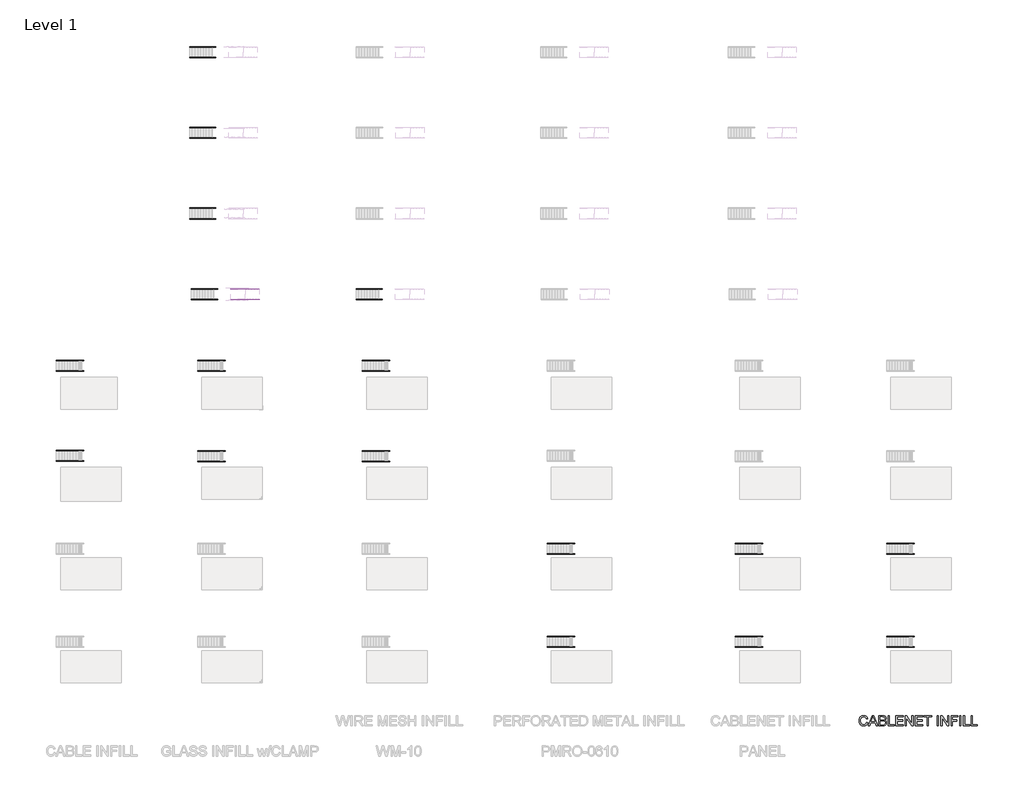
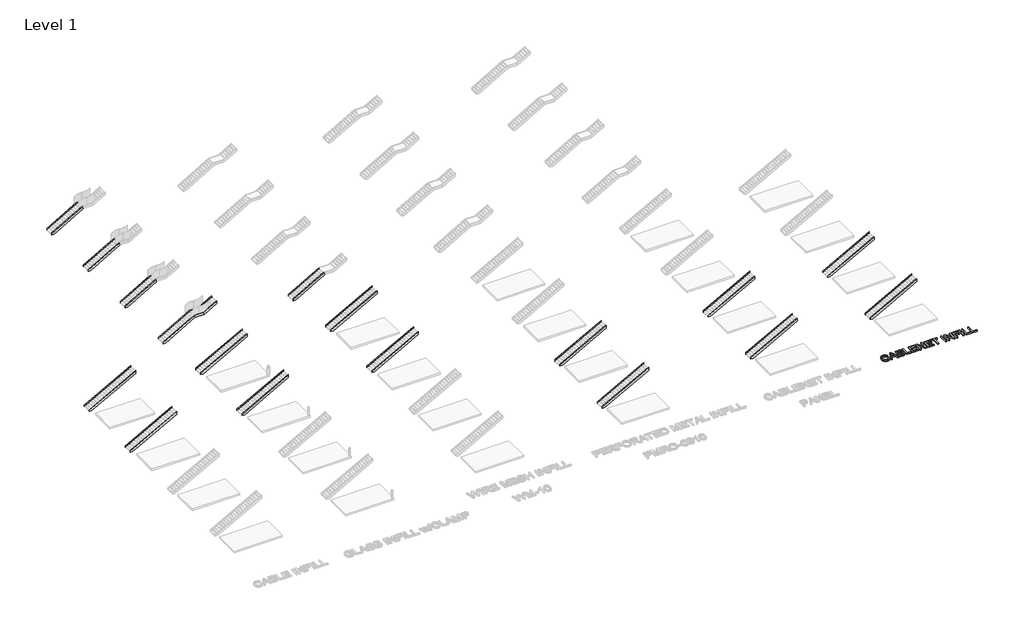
# One storey, part 7 of 8: 38 members, 1 proxy.
"""IFC4 building model written with IfcOpenShell, lengths in millimetres."""

from ifc_helpers import new_model, si_unit, frame, origin, place, context, project, spatial, polyline, outline, extrude, faceted_brep, element, save

model = new_model("IFC4")

# Units and contexts
model_context = context("Model", 3, world=origin())
ifc_project = project(units=[si_unit("LENGTHUNIT", "METRE", prefix="MILLI")], contexts=[model_context])

# Site, building, storey
site = spatial("IfcSite", under=ifc_project)
building = spatial("IfcBuilding", under=site)
storey = spatial("IfcBuildingStorey", under=building, Name="Level 1", Elevation=0.0)

# Proxy
placement = place(None, origin())
element("IfcBuildingElementProxy", 1, Name="36\" Arial", ObjectType="36\" Arial", at=placement, inside=storey, context=model_context, shape_type="Brep", body=[
    faceted_brep([(58925.6844259, -16970.1990264, 152.4), (58910.0903267, -17022.537201, 152.4), (58888.7381918, -17068.0159239, 152.4), (58861.6280212, -17106.635195, 152.4), (58828.7598148, -17138.3950144, 152.4), (58791.0258591, -17163.1838461, 152.4), (58749.3184405, -17180.8901546, 152.4), (58703.637559, -17191.5139396, 152.4), (58653.9832145, -17195.0552013, 152.4), (58612.3455058, -17192.4550229, 152.4), (58572.1995884, -17184.6544879, 152.4), (58533.5454624, -17171.653596, 152.4), (58496.3831277, -17153.4523475, 152.4), (58462.3647083, -17129.9949743, 152.4), (58433.1423285, -17101.2257087, 152.4), (58408.715988, -17067.1445505, 152.4), (58389.085687, -17027.7514997, 152.4), (58374.0074409, -16983.9179299, 152.4), (58363.2372651, -16936.5152145, 152.4), (58356.7751597, -16885.5433534, 152.4), (58354.6211245, -16831.0023467, 152.4), (58356.4405523, -16787.6009781, 152.4), (58361.8988355, -16744.8409404, 152.4), (58370.9959743, -16702.7222335, 152.4), (58383.7319686, -16661.2448575, 152.4), (58400.9572789, -16622.1794432, 152.4), (58423.5223656, -16587.2966214, 152.4), (58451.4272288, -16556.5963921, 152.4), (58484.6718685, -16530.0787554, 152.4), (58522.7752866, -16508.7057076, 152.4), (58565.2564848, -16493.4392448, 152.4), (58612.1154632, -16484.2793671, 152.4), (58663.3522218, -16481.2260746, 152.4), (58707.8828904, -16483.9796147, 152.4), (58748.454038, -16492.2402349, 152.4), (58785.0656647, -16506.0079354, 152.4), (58817.7177705, -16525.282716, 152.4), (58846.577659, -16550.5804299, 152.4), (58871.812634, -16582.4169301, 152.4), (58893.4226954, -16620.7922166, 152.4), (58911.4078434, -16665.7062895, 152.4), (59025.6205036, -16638.4915541, 152.4), (59003.9198193, -16577.5372388, 152.4), (58975.1784376, -16523.8327506, 152.4), (58939.3963584, -16477.3780894, 152.4), (58896.5735818, -16438.1732554, 152.4), (58847.5187423, -16407.0408249, 152.4), (58793.0404745, -16384.8033746, 152.4), (58733.1387783, -16371.4609044, 152.4), (58667.8136539, -16367.0134143, 152.4), (58609.1737065, -16370.4501112, 152.4), (58553.0433146, -16380.7602018, 152.4), (58499.4224782, -16397.9436861, 152.4), (58448.3111974, -16422.0005642, 152.4), (58401.3058282, -16452.6798805, 152.4), (58360.0027269, -16489.7306794, 152.4), (58324.4018934, -16533.152961, 152.4), (58294.5033278, -16582.9467251, 152.4), (58270.836825, -16638.1987726, 152.4), (58253.9321801, -16697.9959039, 152.4), (58243.7893932, -16762.3381191, 152.4), (58240.4084642, -16831.2254183, 152.4), (58243.3990179, -16895.4282138, 152.4), (58252.3706789, -16957.539713, 152.4), (58267.3234472, -17017.5599159, 152.4), (58288.2573229, -17075.4888226, 152.4), (58314.9143793, -17129.0120651, 152.4), (58347.03669, -17175.8152756, 152.4), (58384.624255, -17215.8984541, 152.4), (58427.6770742, -17249.2616006, 152.4), (58476.8713335, -17275.5143398, 152.4), (58532.8832185, -17294.2662963, 152.4), (58595.7127295, -17305.5174703, 152.4), (58665.3598662, -17309.2678616, 152.4), (58733.340937, -17304.3114894, 152.4), (58795.8567535, -17289.4423729, 152.4), (58852.9073157, -17264.6605121, 152.4), (58904.4926237, -17229.965907, 152.4), (58949.5949132, -17185.8325847, 152.4), (58987.1964202, -17132.7345725, 152.4), (59017.2971445, -17070.6718702, 152.4), (59039.8970862, -16999.6444779, 152.4), (58925.6844259, -16970.1990264, 0.0), (59039.8970862, -16999.6444779, 0.0), (59017.2971445, -17070.6718702, 0.0), (58987.1964202, -17132.7345725, 0.0), (58949.5949132, -17185.8325847, 0.0), (58904.4926237, -17229.965907, 0.0), (58852.9073157, -17264.6605121, 0.0), (58795.8567535, -17289.4423729, 0.0), (58733.340937, -17304.3114894, 0.0), (58665.3598662, -17309.2678616, 0.0), (58595.7127295, -17305.5174703, 0.0), (58532.8832185, -17294.2662963, 0.0), (58476.8713335, -17275.5143398, 0.0), (58427.6770742, -17249.2616006, 0.0), (58384.624255, -17215.8984541, 0.0), (58347.03669, -17175.8152756, 0.0), (58314.9143793, -17129.0120651, 0.0), (58288.2573229, -17075.4888226, 0.0), (58267.3234472, -17017.5599159, 0.0), (58252.3706789, -16957.539713, 0.0), (58243.3990179, -16895.4282138, 0.0), (58240.4084642, -16831.2254183, 0.0), (58243.7893932, -16762.3381191, 0.0), (58253.9321801, -16697.9959039, 0.0), (58270.836825, -16638.1987726, 0.0), (58294.5033278, -16582.9467251, 0.0), (58324.4018934, -16533.152961, 0.0), (58360.0027269, -16489.7306794, 0.0), (58401.3058282, -16452.6798805, 0.0), (58448.3111974, -16422.0005642, 0.0), (58499.4224782, -16397.9436861, 0.0), (58553.0433146, -16380.7602018, 0.0), (58609.1737065, -16370.4501112, 0.0), (58667.8136539, -16367.0134143, 0.0), (58733.1387783, -16371.4609044, 0.0), (58793.0404745, -16384.8033746, 0.0), (58847.5187423, -16407.0408249, 0.0), (58896.5735818, -16438.1732554, 0.0), (58939.3963584, -16477.3780894, 0.0), (58975.1784376, -16523.8327506, 0.0), (59003.9198193, -16577.5372388, 0.0), (59025.6205036, -16638.4915541, 0.0), (58911.4078434, -16665.7062895, 0.0), (58893.4226954, -16620.7922166, 0.0), (58871.812634, -16582.4169301, 0.0), (58846.577659, -16550.5804299, 0.0), (58817.7177705, -16525.282716, 0.0), (58785.0656647, -16506.0079354, 0.0), (58748.454038, -16492.2402349, 0.0), (58707.8828904, -16483.9796147, 0.0), (58663.3522218, -16481.2260746, 0.0), (58612.1154632, -16484.2793671, 0.0), (58565.2564848, -16493.4392448, 0.0), (58522.7752866, -16508.7057076, 0.0), (58484.6718685, -16530.0787554, 0.0), (58451.4272288, -16556.5963921, 0.0), (58423.5223656, -16587.2966214, 0.0), (58400.9572789, -16622.1794432, 0.0), (58383.7319686, -16661.2448575, 0.0), (58370.9959743, -16702.7222335, 0.0), (58361.8988355, -16744.8409404, 0.0), (58356.4405523, -16787.6009781, 0.0), (58354.6211245, -16831.0023467, 0.0), (58356.7751597, -16885.5433534, 0.0), (58363.2372651, -16936.5152145, 0.0), (58374.0074409, -16983.9179299, 0.0), (58389.085687, -17027.7514997, 0.0), (58408.715988, -17067.1445505, 0.0), (58433.1423285, -17101.2257087, 0.0), (58462.3647083, -17129.9949743, 0.0), (58496.3831277, -17153.4523475, 0.0), (58533.5454624, -17171.653596, 0.0), (58572.1995884, -17184.6544879, 0.0), (58612.3455058, -17192.4550229, 0.0), (58653.9832145, -17195.0552013, 0.0), (58703.637559, -17191.5139396, 0.0), (58749.3184405, -17180.8901546, 0.0), (58791.0258591, -17163.1838461, 0.0), (58828.7598148, -17138.3950144, 0.0), (58861.6280212, -17106.635195, 0.0), (58888.7381918, -17068.0159239, 0.0), (58910.0903267, -17022.537201, 0.0)], [[[0, 1, 2, 3, 4, 5, 6, 7, 8, 9, 10, 11, 12, 13, 14, 15, 16, 17, 18, 19, 20, 21, 22, 23, 24, 25, 26, 27, 28, 29, 30, 31, 32, 33, 34, 35, 36, 37, 38, 39, 40, 41, 42, 43, 44, 45, 46, 47, 48, 49, 50, 51, 52, 53, 54, 55, 56, 57, 58, 59, 60, 61, 62, 63, 64, 65, 66, 67, 68, 69, 70, 71, 72, 73, 74, 75, 76, 77, 78, 79, 80, 81]], [[82, 83, 84, 85, 86, 87, 88, 89, 90, 91, 92, 93, 94, 95, 96, 97, 98, 99, 100, 101, 102, 103, 104, 105, 106, 107, 108, 109, 110, 111, 112, 113, 114, 115, 116, 117, 118, 119, 120, 121, 122, 123, 124, 125, 126, 127, 128, 129, 130, 131, 132, 133, 134, 135, 136, 137, 138, 139, 140, 141, 142, 143, 144, 145, 146, 147, 148, 149, 150, 151, 152, 153, 154, 155, 156, 157, 158, 159, 160, 161, 162, 163]], [[63, 62, 102, 101]], [[64, 63, 101, 100]], [[65, 64, 100, 99]], [[66, 65, 99, 98]], [[67, 66, 98, 97]], [[68, 67, 97, 96]], [[69, 68, 96, 95]], [[70, 69, 95, 94]], [[71, 70, 94, 93]], [[72, 71, 93, 92]], [[73, 72, 92, 91]], [[74, 73, 91, 90]], [[75, 74, 90, 89]], [[76, 75, 89, 88]], [[77, 76, 88, 87]], [[78, 77, 87, 86]], [[79, 78, 86, 85]], [[80, 79, 85, 84]], [[81, 80, 84, 83]], [[0, 81, 83, 82]], [[61, 60, 104, 103]], [[62, 61, 103, 102]], [[54, 53, 111, 110]], [[55, 54, 110, 109]], [[56, 55, 109, 108]], [[57, 56, 108, 107]], [[58, 57, 107, 106]], [[59, 58, 106, 105]], [[60, 59, 105, 104]], [[33, 32, 132, 131]], [[34, 33, 131, 130]], [[35, 34, 130, 129]], [[36, 35, 129, 128]], [[37, 36, 128, 127]], [[38, 37, 127, 126]], [[39, 38, 126, 125]], [[40, 39, 125, 124]], [[41, 40, 124, 123]], [[42, 41, 123, 122]], [[43, 42, 122, 121]], [[44, 43, 121, 120]], [[45, 44, 120, 119]], [[46, 45, 119, 118]], [[47, 46, 118, 117]], [[48, 47, 117, 116]], [[49, 48, 116, 115]], [[50, 49, 115, 114]], [[51, 50, 114, 113]], [[52, 51, 113, 112]], [[53, 52, 112, 111]], [[1, 0, 82, 163]], [[2, 1, 163, 162]], [[3, 2, 162, 161]], [[4, 3, 161, 160]], [[5, 4, 160, 159]], [[6, 5, 159, 158]], [[7, 6, 158, 157]], [[8, 7, 157, 156]], [[9, 8, 156, 155]], [[10, 9, 155, 154]], [[11, 10, 154, 153]], [[12, 11, 153, 152]], [[13, 12, 152, 151]], [[14, 13, 151, 150]], [[15, 14, 150, 149]], [[16, 15, 149, 148]], [[17, 16, 148, 147]], [[18, 17, 147, 146]], [[19, 18, 146, 145]], [[20, 19, 145, 144]], [[21, 20, 144, 143]], [[22, 21, 143, 142]], [[23, 22, 142, 141]], [[24, 23, 141, 140]], [[25, 24, 140, 139]], [[26, 25, 139, 138]], [[27, 26, 138, 137]], [[28, 27, 137, 136]], [[29, 28, 136, 135]], [[30, 29, 135, 134]], [[31, 30, 134, 133]], [[32, 31, 133, 132]]]),
    faceted_brep([(59090.5343398, -17294.991279, 152.4), (59211.2160766, -17294.991279, 152.4), (59315.6135864, -17009.4596284, 152.4), (59691.9353791, -17009.4596284, 152.4), (59796.5559605, -17294.991279, 152.4), (59917.2376972, -17294.991279, 152.4), (59552.5156278, -16381.2899968, 152.4), (59455.2564093, -16381.2899968, 152.4), (59357.5510476, -16895.2469681, 152.4), (59447.00276, -16650.9835638, 152.4), (59503.8860185, -16495.5026571, 152.4), (59567.9075683, -16670.6138648, 152.4), (59650.2209895, -16895.2469681, 152.4), (59090.5343398, -17294.991279, 0.0), (59455.2564093, -16381.2899968, 0.0), (59552.5156278, -16381.2899968, 0.0), (59917.2376972, -17294.991279, 0.0), (59796.5559605, -17294.991279, 0.0), (59691.9353791, -17009.4596284, 0.0), (59315.6135864, -17009.4596284, 0.0), (59211.2160766, -17294.991279, 0.0), (59357.5510476, -16895.2469681, 0.0), (59650.2209895, -16895.2469681, 0.0), (59567.9075683, -16670.6138648, 0.0), (59503.8860185, -16495.5026571, 0.0), (59447.00276, -16650.9835638, 0.0)], [[[0, 1, 2, 3, 4, 5, 6, 7], [8, 9, 10, 11, 12]], [[13, 14, 15, 16, 17, 18, 19, 20], [21, 22, 23, 24, 25]], [[1, 0, 13, 20]], [[2, 1, 20, 19]], [[3, 2, 19, 18]], [[4, 3, 18, 17]], [[5, 4, 17, 16]], [[6, 5, 16, 15]], [[7, 6, 15, 14]], [[0, 7, 14, 13]], [[9, 8, 21, 25]], [[10, 9, 25, 24]], [[11, 10, 24, 23]], [[12, 11, 23, 22]], [[8, 12, 22, 21]]]),
    faceted_brep([(60039.2578636, -17294.991279, 152.4), (60385.2419184, -17294.991279, 152.4), (60465.2409717, -17291.0596421, 152.4), (60531.6884252, -17279.2647311, 152.4), (60586.3688517, -17259.8017338, 152.4), (60631.066824, -17232.8658379, 152.4), (60650.118533, -17215.8984541, 152.4), (60667.5669148, -17195.6686482, 152.4), (60697.6536972, -17145.4217698, 152.4), (60709.4137532, -17116.4573165, 152.4), (60717.8137932, -17086.3356792, 152.4), (60722.8538172, -17055.056858, 152.4), (60724.5338252, -17022.6208529, 152.4), (60722.0730666, -16983.0395855, 152.4), (60714.6907908, -16946.1630613, 152.4), (60702.3869977, -16911.9912802, 152.4), (60685.1616875, -16880.5242423, 152.4), (60663.3634093, -16852.6124081, 152.4), (60637.3407128, -16829.1062381, 152.4), (60607.0935977, -16810.0057321, 152.4), (60572.6220642, -16795.3108903, 152.4), (60601.6701694, -16778.7129689, 152.4), (60626.8005796, -16759.7030858, 152.4), (60648.0132947, -16738.2812411, 152.4), (60665.3083149, -16714.4474346, 152.4), (60678.7274659, -16688.996359, 152.4), (60688.3125738, -16662.7227068, 152.4), (60694.0636386, -16635.6264782, 152.4), (60695.9806602, -16607.707673, 152.4), (60693.7011472, -16577.4814709, 152.4), (60686.8626084, -16547.9244836, 152.4), (60675.4650438, -16519.0367111, 152.4), (60659.5084532, -16490.8181535, 152.4), (60639.5296029, -16464.739689, 152.4), (60616.0652587, -16442.2721961, 152.4), (60589.1154208, -16423.4156747, 152.4), (60558.6800891, -16408.1701249, 152.4), (60523.8739482, -16396.4100689, 152.4), (60483.8116826, -16388.0100288, 152.4), (60438.4932925, -16382.9700048, 152.4), (60387.9187777, -16381.2899968, 152.4), (60039.2578636, -16381.2899968, 152.4), (60153.4705239, -16752.4811427, 152.4), (60153.4705239, -16495.5026571, 152.4), (60346.2043881, -16495.5026571, 152.4), (60434.8753499, -16498.4862398, 152.4), (60492.9855023, -16507.4369878, 152.4), (60513.1595403, -16514.6659019, 152.4), (60530.8519067, -16524.4183135, 152.4), (60546.0626016, -16536.6942226, 152.4), (60558.7916249, -16551.4936292, 152.4), (60576.0239061, -16586.1812634, 152.4), (60581.7679999, -16625.9995443, 152.4), (60580.2274116, -16647.4632151, 152.4), (60575.6056469, -16667.0168352, 152.4), (60567.9027056, -16684.6604047, 152.4), (60557.1185879, -16700.3939236, 152.4), (60543.2951195, -16714.1197982, 152.4), (60526.4741265, -16725.7404344, 152.4), (60483.8395666, -16742.6659922, 152.4), (60434.9868857, -16750.0273551, 152.4), (60362.0424718, -16752.4811427, 152.4), (60153.4705239, -17180.7786188, 152.4), (60153.4705239, -16866.693803, 152.4), (60376.542126, -16866.693803, 152.4), (60457.8796089, -16870.5139042, 152.4), (60517.6349143, -16881.9742078, 152.4), (60540.4230726, -16891.0155786, 152.4), (60559.823331, -16902.8592865, 152.4), (60575.8356895, -16917.5053314, 152.4), (60588.460148, -16934.9537132, 152.4), (60604.8559107, -16975.998888, 152.4), (60610.321165, -17023.7362109, 152.4), (60605.6645453, -17064.8371536, 152.4), (60591.6946862, -17100.6959136, 152.4), (60570.502884, -17130.0019453, 152.4), (60544.1804349, -17151.4447031, 152.4), (60511.8071687, -17166.4183844, 152.4), (60472.4629149, -17176.3171867, 152.4), (60387.6957061, -17180.7786188, 152.4), (60039.2578636, -17294.991279, 0.0), (60039.2578636, -16381.2899968, 0.0), (60387.9187777, -16381.2899968, 0.0), (60438.4932925, -16382.9700048, 0.0), (60483.8116826, -16388.0100288, 0.0), (60523.8739482, -16396.4100689, 0.0), (60558.6800891, -16408.1701249, 0.0), (60589.1154208, -16423.4156747, 0.0), (60616.0652587, -16442.2721961, 0.0), (60639.5296029, -16464.739689, 0.0), (60659.5084532, -16490.8181535, 0.0), (60675.4650438, -16519.0367111, 0.0), (60686.8626084, -16547.9244836, 0.0), (60693.7011472, -16577.4814709, 0.0), (60695.9806602, -16607.707673, 0.0), (60694.0636386, -16635.6264782, 0.0), (60688.3125738, -16662.7227068, 0.0), (60678.7274659, -16688.996359, 0.0), (60665.3083149, -16714.4474346, 0.0), (60648.0132947, -16738.2812411, 0.0), (60626.8005796, -16759.7030858, 0.0), (60601.6701694, -16778.7129689, 0.0), (60572.6220642, -16795.3108903, 0.0), (60607.0935977, -16810.0057321, 0.0), (60637.3407128, -16829.1062381, 0.0), (60663.3634093, -16852.6124081, 0.0), (60685.1616875, -16880.5242423, 0.0), (60702.3869977, -16911.9912802, 0.0), (60714.6907908, -16946.1630613, 0.0), (60722.0730666, -16983.0395855, 0.0), (60724.5338252, -17022.6208529, 0.0), (60722.8538172, -17055.056858, 0.0), (60717.8137932, -17086.3356792, 0.0), (60709.4137532, -17116.4573165, 0.0), (60697.6536972, -17145.4217698, 0.0), (60667.5669148, -17195.6686482, 0.0), (60650.118533, -17215.8984541, 0.0), (60631.066824, -17232.8658379, 0.0), (60586.3688517, -17259.8017338, 0.0), (60531.6884252, -17279.2647311, 0.0), (60465.2409717, -17291.0596421, 0.0), (60385.2419184, -17294.991279, 0.0), (60153.4705239, -16752.4811427, 0.0), (60362.0424718, -16752.4811427, 0.0), (60434.9868857, -16750.0273551, 0.0), (60483.8395666, -16742.6659922, 0.0), (60526.4741265, -16725.7404344, 0.0), (60543.2951195, -16714.1197982, 0.0), (60557.1185879, -16700.3939236, 0.0), (60567.9027056, -16684.6604047, 0.0), (60575.6056469, -16667.0168352, 0.0), (60580.2274116, -16647.4632151, 0.0), (60581.7679999, -16625.9995443, 0.0), (60576.0239061, -16586.1812634, 0.0), (60558.7916249, -16551.4936292, 0.0), (60546.0626016, -16536.6942226, 0.0), (60530.8519067, -16524.4183135, 0.0), (60513.1595403, -16514.6659019, 0.0), (60492.9855023, -16507.4369878, 0.0), (60434.8753499, -16498.4862398, 0.0), (60346.2043881, -16495.5026571, 0.0), (60153.4705239, -16495.5026571, 0.0), (60153.4705239, -17180.7786188, 0.0), (60387.6957061, -17180.7786188, 0.0), (60472.4629149, -17176.3171867, 0.0), (60511.8071687, -17166.4183844, 0.0), (60544.1804349, -17151.4447031, 0.0), (60570.502884, -17130.0019453, 0.0), (60591.6946862, -17100.6959136, 0.0), (60605.6645453, -17064.8371536, 0.0), (60610.321165, -17023.7362109, 0.0), (60604.8559107, -16975.998888, 0.0), (60588.460148, -16934.9537132, 0.0), (60575.8356895, -16917.5053314, 0.0), (60559.823331, -16902.8592865, 0.0), (60540.4230726, -16891.0155786, 0.0), (60517.6349143, -16881.9742078, 0.0), (60457.8796089, -16870.5139042, 0.0), (60376.542126, -16866.693803, 0.0), (60153.4705239, -16866.693803, 0.0)], [[[0, 1, 2, 3, 4, 5, 6, 7, 8, 9, 10, 11, 12, 13, 14, 15, 16, 17, 18, 19, 20, 21, 22, 23, 24, 25, 26, 27, 28, 29, 30, 31, 32, 33, 34, 35, 36, 37, 38, 39, 40, 41], [42, 43, 44, 45, 46, 47, 48, 49, 50, 51, 52, 53, 54, 55, 56, 57, 58, 59, 60, 61], [62, 63, 64, 65, 66, 67, 68, 69, 70, 71, 72, 73, 74, 75, 76, 77, 78, 79]], [[80, 81, 82, 83, 84, 85, 86, 87, 88, 89, 90, 91, 92, 93, 94, 95, 96, 97, 98, 99, 100, 101, 102, 103, 104, 105, 106, 107, 108, 109, 110, 111, 112, 113, 114, 115, 116, 117, 118, 119, 120, 121], [122, 123, 124, 125, 126, 127, 128, 129, 130, 131, 132, 133, 134, 135, 136, 137, 138, 139, 140, 141], [142, 143, 144, 145, 146, 147, 148, 149, 150, 151, 152, 153, 154, 155, 156, 157, 158, 159]], [[37, 36, 86, 85]], [[38, 37, 85, 84]], [[39, 38, 84, 83]], [[40, 39, 83, 82]], [[41, 40, 82, 81]], [[0, 41, 81, 80]], [[16, 15, 107, 106]], [[17, 16, 106, 105]], [[18, 17, 105, 104]], [[19, 18, 104, 103]], [[20, 19, 103, 102]], [[21, 20, 102, 101]], [[22, 21, 101, 100]], [[23, 22, 100, 99]], [[24, 23, 99, 98]], [[25, 24, 98, 97]], [[26, 25, 97, 96]], [[27, 26, 96, 95]], [[28, 27, 95, 94]], [[29, 28, 94, 93]], [[30, 29, 93, 92]], [[31, 30, 92, 91]], [[32, 31, 91, 90]], [[33, 32, 90, 89]], [[34, 33, 89, 88]], [[35, 34, 88, 87]], [[36, 35, 87, 86]], [[1, 0, 80, 121]], [[2, 1, 121, 120]], [[3, 2, 120, 119]], [[4, 3, 119, 118]], [[5, 4, 118, 117]], [[6, 5, 117, 116]], [[7, 6, 116, 115]], [[8, 7, 115, 114]], [[9, 8, 114, 113]], [[10, 9, 113, 112]], [[11, 10, 112, 111]], [[12, 11, 111, 110]], [[13, 12, 110, 109]], [[14, 13, 109, 108]], [[15, 14, 108, 107]], [[43, 42, 122, 141]], [[44, 43, 141, 140]], [[45, 44, 140, 139]], [[46, 45, 139, 138]], [[47, 46, 138, 137]], [[48, 47, 137, 136]], [[49, 48, 136, 135]], [[50, 49, 135, 134]], [[51, 50, 134, 133]], [[52, 51, 133, 132]], [[53, 52, 132, 131]], [[54, 53, 131, 130]], [[55, 54, 130, 129]], [[56, 55, 129, 128]], [[57, 56, 128, 127]], [[58, 57, 127, 126]], [[59, 58, 126, 125]], [[60, 59, 125, 124]], [[61, 60, 124, 123]], [[42, 61, 123, 122]], [[63, 62, 142, 159]], [[64, 63, 159, 158]], [[65, 64, 158, 157]], [[66, 65, 157, 156]], [[67, 66, 156, 155]], [[68, 67, 155, 154]], [[69, 68, 154, 153]], [[70, 69, 153, 152]], [[71, 70, 152, 151]], [[72, 71, 151, 150]], [[73, 72, 150, 149]], [[74, 73, 149, 148]], [[75, 74, 148, 147]], [[76, 75, 147, 146]], [[77, 76, 146, 145]], [[78, 77, 145, 144]], [[79, 78, 144, 143]], [[62, 79, 143, 142]]]),
    faceted_brep([(60881.5762331, -17294.991279, 152.4), (61452.6395345, -17294.991279, 152.4), (61452.6395345, -17180.7786188, 152.4), (60995.7888934, -17180.7786188, 152.4), (60995.7888934, -16381.2899968, 152.4), (60881.5762331, -16381.2899968, 152.4), (60881.5762331, -17294.991279, 0.0), (60881.5762331, -16381.2899968, 0.0), (60995.7888934, -16381.2899968, 0.0), (60995.7888934, -17180.7786188, 0.0), (61452.6395345, -17180.7786188, 0.0), (61452.6395345, -17294.991279, 0.0)], [[[0, 1, 2, 3, 4, 5]], [[6, 7, 8, 9, 10, 11]], [[1, 0, 6, 11]], [[2, 1, 11, 10]], [[3, 2, 10, 9]], [[4, 3, 9, 8]], [[5, 4, 8, 7]], [[0, 5, 7, 6]]]),
    faceted_brep([(61581.1287773, -17294.991279, 152.4), (62252.1281564, -17294.991279, 152.4), (62252.1281564, -17180.7786188, 152.4), (61695.3414376, -17180.7786188, 152.4), (61695.3414376, -16880.9703855, 152.4), (62209.2984088, -16880.9703855, 152.4), (62209.2984088, -16766.7577253, 152.4), (61695.3414376, -16766.7577253, 152.4), (61695.3414376, -16495.5026571, 152.4), (62237.8515739, -16495.5026571, 152.4), (62237.8515739, -16381.2899968, 152.4), (61581.1287773, -16381.2899968, 152.4), (61581.1287773, -17294.991279, 0.0), (61581.1287773, -16381.2899968, 0.0), (62237.8515739, -16381.2899968, 0.0), (62237.8515739, -16495.5026571, 0.0), (61695.3414376, -16495.5026571, 0.0), (61695.3414376, -16766.7577253, 0.0), (62209.2984088, -16766.7577253, 0.0), (62209.2984088, -16880.9703855, 0.0), (61695.3414376, -16880.9703855, 0.0), (61695.3414376, -17180.7786188, 0.0), (62252.1281564, -17180.7786188, 0.0), (62252.1281564, -17294.991279, 0.0)], [[[0, 1, 2, 3, 4, 5, 6, 7, 8, 9, 10, 11]], [[12, 13, 14, 15, 16, 17, 18, 19, 20, 21, 22, 23]], [[10, 9, 15, 14]], [[11, 10, 14, 13]], [[0, 11, 13, 12]], [[1, 0, 12, 23]], [[2, 1, 23, 22]], [[3, 2, 22, 21]], [[4, 3, 21, 20]], [[5, 4, 20, 19]], [[6, 5, 19, 18]], [[7, 6, 18, 17]], [[8, 7, 17, 16]], [[9, 8, 16, 15]]]),
    faceted_brep([(62423.4471468, -17294.991279, 152.4), (62537.6598071, -17294.991279, 152.4), (62537.6598071, -16570.9008586, 152.4), (63015.0330356, -17294.991279, 152.4), (63137.2762736, -17294.991279, 152.4), (63137.2762736, -16381.2899968, 152.4), (63023.0636133, -16381.2899968, 152.4), (63023.0636133, -17105.1573457, 152.4), (62545.6903848, -16381.2899968, 152.4), (62423.4471468, -16381.2899968, 152.4), (62423.4471468, -17294.991279, 0.0), (62423.4471468, -16381.2899968, 0.0), (62545.6903848, -16381.2899968, 0.0), (63023.0636133, -17105.1573457, 0.0), (63023.0636133, -16381.2899968, 0.0), (63137.2762736, -16381.2899968, 0.0), (63137.2762736, -17294.991279, 0.0), (63015.0330356, -17294.991279, 0.0), (62537.6598071, -16570.9008586, 0.0), (62537.6598071, -17294.991279, 0.0)], [[[0, 1, 2, 3, 4, 5, 6, 7, 8, 9]], [[10, 11, 12, 13, 14, 15, 16, 17, 18, 19]], [[1, 0, 10, 19]], [[2, 1, 19, 18]], [[3, 2, 18, 17]], [[4, 3, 17, 16]], [[5, 4, 16, 15]], [[6, 5, 15, 14]], [[7, 6, 14, 13]], [[8, 7, 13, 12]], [[9, 8, 12, 11]], [[0, 9, 11, 10]]]),
    faceted_brep([(63337.148429, -17294.991279, 152.4), (64008.1478082, -17294.991279, 152.4), (64008.1478082, -17180.7786188, 152.4), (63451.3610893, -17180.7786188, 152.4), (63451.3610893, -16880.9703855, 152.4), (63965.3180606, -16880.9703855, 152.4), (63965.3180606, -16766.7577253, 152.4), (63451.3610893, -16766.7577253, 152.4), (63451.3610893, -16495.5026571, 152.4), (63993.8712256, -16495.5026571, 152.4), (63993.8712256, -16381.2899968, 152.4), (63337.148429, -16381.2899968, 152.4), (63337.148429, -17294.991279, 0.0), (63337.148429, -16381.2899968, 0.0), (63993.8712256, -16381.2899968, 0.0), (63993.8712256, -16495.5026571, 0.0), (63451.3610893, -16495.5026571, 0.0), (63451.3610893, -16766.7577253, 0.0), (63965.3180606, -16766.7577253, 0.0), (63965.3180606, -16880.9703855, 0.0), (63451.3610893, -16880.9703855, 0.0), (63451.3610893, -17180.7786188, 0.0), (64008.1478082, -17180.7786188, 0.0), (64008.1478082, -17294.991279, 0.0)], [[[0, 1, 2, 3, 4, 5, 6, 7, 8, 9, 10, 11]], [[12, 13, 14, 15, 16, 17, 18, 19, 20, 21, 22, 23]], [[2, 1, 23, 22]], [[3, 2, 22, 21]], [[4, 3, 21, 20]], [[5, 4, 20, 19]], [[6, 5, 19, 18]], [[7, 6, 18, 17]], [[8, 7, 17, 16]], [[9, 8, 16, 15]], [[10, 9, 15, 14]], [[11, 10, 14, 13]], [[0, 11, 13, 12]], [[1, 0, 12, 23]]]),
    faceted_brep([(64407.8921191, -17294.991279, 152.4), (64522.1047794, -17294.991279, 152.4), (64522.1047794, -16495.5026571, 152.4), (64821.9130126, -16495.5026571, 152.4), (64821.9130126, -16381.2899968, 152.4), (64108.0838859, -16381.2899968, 152.4), (64108.0838859, -16495.5026571, 152.4), (64407.8921191, -16495.5026571, 152.4), (64407.8921191, -17294.991279, 0.0), (64407.8921191, -16495.5026571, 0.0), (64108.0838859, -16495.5026571, 0.0), (64108.0838859, -16381.2899968, 0.0), (64821.9130126, -16381.2899968, 0.0), (64821.9130126, -16495.5026571, 0.0), (64522.1047794, -16495.5026571, 0.0), (64522.1047794, -17294.991279, 0.0)], [[[0, 1, 2, 3, 4, 5, 6, 7]], [[8, 9, 10, 11, 12, 13, 14, 15]], [[1, 0, 8, 15]], [[2, 1, 15, 14]], [[3, 2, 14, 13]], [[4, 3, 13, 12]], [[5, 4, 12, 11]], [[6, 5, 11, 10]], [[7, 6, 10, 9]], [[0, 7, 9, 8]]]),
    faceted_brep([(65321.5934013, -17294.991279, 152.4), (65435.8060616, -17294.991279, 152.4), (65435.8060616, -16381.2899968, 152.4), (65321.5934013, -16381.2899968, 152.4), (65321.5934013, -17294.991279, 0.0), (65321.5934013, -16381.2899968, 0.0), (65435.8060616, -16381.2899968, 0.0), (65435.8060616, -17294.991279, 0.0)], [[[0, 1, 2, 3]], [[4, 5, 6, 7]], [[1, 0, 4, 7]], [[2, 1, 7, 6]], [[3, 2, 6, 5]], [[0, 3, 5, 4]]]),
    faceted_brep([(65664.2313822, -17294.991279, 152.4), (65778.4440424, -17294.991279, 152.4), (65778.4440424, -16570.9008586, 152.4), (66255.8172709, -17294.991279, 152.4), (66378.0605089, -17294.991279, 152.4), (66378.0605089, -16381.2899968, 152.4), (66263.8478486, -16381.2899968, 152.4), (66263.8478486, -17105.1573457, 152.4), (65786.4746201, -16381.2899968, 152.4), (65664.2313822, -16381.2899968, 152.4), (65664.2313822, -17294.991279, 0.0), (65664.2313822, -16381.2899968, 0.0), (65786.4746201, -16381.2899968, 0.0), (66263.8478486, -17105.1573457, 0.0), (66263.8478486, -16381.2899968, 0.0), (66378.0605089, -16381.2899968, 0.0), (66378.0605089, -17294.991279, 0.0), (66255.8172709, -17294.991279, 0.0), (65778.4440424, -16570.9008586, 0.0), (65778.4440424, -17294.991279, 0.0)], [[[0, 1, 2, 3, 4, 5, 6, 7, 8, 9]], [[10, 11, 12, 13, 14, 15, 16, 17, 18, 19]], [[1, 0, 10, 19]], [[2, 1, 19, 18]], [[3, 2, 18, 17]], [[4, 3, 17, 16]], [[5, 4, 16, 15]], [[6, 5, 15, 14]], [[7, 6, 14, 13]], [[8, 7, 13, 12]], [[9, 8, 12, 11]], [[0, 9, 11, 10]]]),
    faceted_brep([(66577.9326644, -17294.991279, 152.4), (66692.1453246, -17294.991279, 152.4), (66692.1453246, -16880.9703855, 152.4), (67120.4428007, -16880.9703855, 152.4), (67120.4428007, -16766.7577253, 152.4), (66692.1453246, -16766.7577253, 152.4), (66692.1453246, -16495.5026571, 152.4), (67191.8257133, -16495.5026571, 152.4), (67191.8257133, -16381.2899968, 152.4), (66577.9326644, -16381.2899968, 152.4), (66577.9326644, -17294.991279, 0.0), (66577.9326644, -16381.2899968, 0.0), (67191.8257133, -16381.2899968, 0.0), (67191.8257133, -16495.5026571, 0.0), (66692.1453246, -16495.5026571, 0.0), (66692.1453246, -16766.7577253, 0.0), (67120.4428007, -16766.7577253, 0.0), (67120.4428007, -16880.9703855, 0.0), (66692.1453246, -16880.9703855, 0.0), (66692.1453246, -17294.991279, 0.0)], [[[0, 1, 2, 3, 4, 5, 6, 7, 8, 9]], [[10, 11, 12, 13, 14, 15, 16, 17, 18, 19]], [[1, 0, 10, 19]], [[2, 1, 19, 18]], [[3, 2, 18, 17]], [[4, 3, 17, 16]], [[5, 4, 16, 15]], [[6, 5, 15, 14]], [[7, 6, 14, 13]], [[8, 7, 13, 12]], [[9, 8, 12, 11]], [[0, 9, 11, 10]]]),
    faceted_brep([(67363.1447038, -17294.991279, 152.4), (67477.357364, -17294.991279, 152.4), (67477.357364, -16381.2899968, 152.4), (67363.1447038, -16381.2899968, 152.4), (67363.1447038, -17294.991279, 0.0), (67363.1447038, -16381.2899968, 0.0), (67477.357364, -16381.2899968, 0.0), (67477.357364, -17294.991279, 0.0)], [[[0, 1, 2, 3]], [[4, 5, 6, 7]], [[1, 0, 4, 7]], [[2, 1, 7, 6]], [[3, 2, 6, 5]], [[0, 3, 5, 4]]]),
    faceted_brep([(67705.7826846, -17294.991279, 152.4), (68276.845986, -17294.991279, 152.4), (68276.845986, -17180.7786188, 152.4), (67819.9953449, -17180.7786188, 152.4), (67819.9953449, -16381.2899968, 152.4), (67705.7826846, -16381.2899968, 152.4), (67705.7826846, -17294.991279, 0.0), (67705.7826846, -16381.2899968, 0.0), (67819.9953449, -16381.2899968, 0.0), (67819.9953449, -17180.7786188, 0.0), (68276.845986, -17180.7786188, 0.0), (68276.845986, -17294.991279, 0.0)], [[[0, 1, 2, 3, 4, 5]], [[6, 7, 8, 9, 10, 11]], [[1, 0, 6, 11]], [[2, 1, 11, 10]], [[3, 2, 10, 9]], [[4, 3, 9, 8]], [[5, 4, 8, 7]], [[0, 5, 7, 6]]]),
    faceted_brep([(68405.3352288, -17294.991279, 152.4), (68976.3985301, -17294.991279, 152.4), (68976.3985301, -17180.7786188, 152.4), (68519.547889, -17180.7786188, 152.4), (68519.547889, -16381.2899968, 152.4), (68405.3352288, -16381.2899968, 152.4), (68405.3352288, -17294.991279, 0.0), (68405.3352288, -16381.2899968, 0.0), (68519.547889, -16381.2899968, 0.0), (68519.547889, -17180.7786188, 0.0), (68976.3985301, -17180.7786188, 0.0), (68976.3985301, -17294.991279, 0.0)], [[[0, 1, 2, 3, 4, 5]], [[6, 7, 8, 9, 10, 11]], [[1, 0, 6, 11]], [[2, 1, 11, 10]], [[3, 2, 10, 9]], [[4, 3, 9, 8]], [[5, 4, 8, 7]], [[0, 5, 7, 6]]]),
])

# Members
element("IfcMember", 2, ObjectType="Stringer - 2\" Width", at=placement, inside=storey, context=model_context, shape_type="SweptSolid", body=[
    extrude(outline(polyline([(179.6072535, -2292.8839979), (0.0, -2292.8839979), (0.0, -2018.4503195), (1916.7928571, 1335.9371805), (2208.8928571, 1258.3658084), (179.6072535, -2292.8839979)])), frame((0.0, 22299.7361774, 0.0), z_axis=(0.0, 1.0, 0.0), x_axis=(0.0, 0.0, 1.0)), (0.0, 0.0, 1.0), 50.8),
])
element("IfcMember", 3, ObjectType="Stringer - 2\" Width", at=placement, inside=storey, context=model_context, shape_type="SweptSolid", body=[
    extrude(outline(polyline([(179.6072535, -2292.8839979), (0.0, -2292.8839979), (0.0, -2018.4503195), (1916.7928571, 1335.9371805), (2208.8928571, 1258.3658084), (179.6072535, -2292.8839979)])), frame((0.0, 21334.5361774, 0.0), z_axis=(0.0, 1.0, 0.0), x_axis=(0.0, 0.0, 1.0)), (0.0, 0.0, 1.0), 50.8),
])
element("IfcMember", 4, ObjectType="Stringer - 2\" Width", at=placement, inside=storey, context=model_context, shape_type="SweptSolid", body=[
    extrude(outline(polyline([(2208.8928571, 2325.1658084), (1916.7928571, 2402.7371805), (2746.037898, 3853.9160021), (3048.0, 3853.9160021), (3048.0, 3793.6033084), (2208.8928571, 2325.1658084)])), frame((0.0, 22299.7361774, 0.0), z_axis=(0.0, 1.0, 0.0), x_axis=(0.0, 0.0, 1.0)), (0.0, 0.0, 1.0), 50.8),
])
element("IfcMember", 5, ObjectType="Stringer - 2\" Width", at=placement, inside=storey, context=model_context, shape_type="SweptSolid", body=[
    extrude(outline(polyline([(2208.8928571, 2325.1658084), (1916.7928571, 2402.7371805), (2746.037898, 3853.9160021), (3048.0, 3853.9160021), (3048.0, 3793.6033084), (2208.8928571, 2325.1658084)])), frame((0.0, 21334.5361774, 0.0), z_axis=(0.0, 1.0, 0.0), x_axis=(0.0, 0.0, 1.0)), (0.0, 0.0, 1.0), 50.8),
])
element("IfcMember", 6, ObjectType="Stringer - 2\" Width", at=placement, inside=storey, context=model_context, shape_type="SweptSolid", body=[
    extrude(outline(polyline([(1916.7928571, 2402.7371805), (2208.8928571, 2325.1658084), (2208.8928571, 1258.3658084), (1916.7928571, 1335.9371805), (1916.7928571, 2402.7371805)])), frame((0.0, 22299.7361774, 0.0), z_axis=(0.0, 1.0, 0.0), x_axis=(0.0, 0.0, 1.0)), (0.0, 0.0, 1.0), 50.8),
])
element("IfcMember", 7, ObjectType="Stringer - 2\" Width", at=placement, inside=storey, context=model_context, shape_type="SweptSolid", body=[
    extrude(outline(polyline([(2208.8928571, 1258.3658084), (1916.7928571, 1335.9371805), (1916.7928571, 2402.7371805), (2208.8928571, 2325.1658084), (2208.8928571, 1258.3658084)])), frame((0.0, 21334.5361774, 0.0), z_axis=(0.0, 1.0, 0.0), x_axis=(0.0, 0.0, 1.0)), (0.0, 0.0, 1.0), 50.8),
])
element("IfcMember", 8, ObjectType="Stringer - 2\" Width", at=placement, inside=storey, context=model_context, shape_type="SweptSolid", body=[
    extrude(outline(polyline([(179.6072535, -2457.4463139), (0.0, -2457.4463139), (0.0, -2183.0126354), (1916.7928571, 1171.3748646), (2208.8928571, 1093.8034925), (179.6072535, -2457.4463139)])), frame((0.0, 44245.3361774, 0.0), z_axis=(0.0, 1.0, 0.0), x_axis=(0.0, 0.0, 1.0)), (0.0, 0.0, 1.0), 50.8),
])
element("IfcMember", 9, ObjectType="Stringer - 2\" Width", at=placement, inside=storey, context=model_context, shape_type="SweptSolid", body=[
    extrude(outline(polyline([(179.6072535, -2457.4463139), (0.0, -2457.4463139), (0.0, -2183.0126354), (1916.7928571, 1171.3748646), (2208.8928571, 1093.8034925), (179.6072535, -2457.4463139)])), frame((0.0, 43280.1361774, 0.0), z_axis=(0.0, 1.0, 0.0), x_axis=(0.0, 0.0, 1.0)), (0.0, 0.0, 1.0), 50.8),
])
element("IfcMember", 10, ObjectType="Stringer - 2\" Width", at=placement, inside=storey, context=model_context, shape_type="SweptSolid", body=[
    extrude(outline(polyline([(179.6072535, -2457.4463139), (0.0, -2457.4463139), (0.0, -2183.0126354), (1916.7928571, 1171.3748646), (2208.8928571, 1093.8034925), (179.6072535, -2457.4463139)])), frame((0.0, 36930.1361774, 0.0), z_axis=(0.0, 1.0, 0.0), x_axis=(0.0, 0.0, 1.0)), (0.0, 0.0, 1.0), 50.8),
])
element("IfcMember", 11, ObjectType="Stringer - 2\" Width", at=placement, inside=storey, context=model_context, shape_type="SweptSolid", body=[
    extrude(outline(polyline([(179.6072535, -2457.4463139), (0.0, -2457.4463139), (0.0, -2183.0126354), (1916.7928571, 1171.3748646), (2208.8928571, 1093.8034925), (179.6072535, -2457.4463139)])), frame((0.0, 35964.9361774, 0.0), z_axis=(0.0, 1.0, 0.0), x_axis=(0.0, 0.0, 1.0)), (0.0, 0.0, 1.0), 50.8),
])
element("IfcMember", 12, ObjectType="Stringer - 2\" Width", at=placement, inside=storey, context=model_context, shape_type="SweptSolid", body=[
    extrude(outline(polyline([(179.6072535, -2457.4463139), (0.0, -2457.4463139), (0.0, -2183.0126354), (1916.7928571, 1171.3748646), (2208.8928571, 1093.8034925), (179.6072535, -2457.4463139)])), frame((0.0, 29614.9361774, 0.0), z_axis=(0.0, 1.0, 0.0), x_axis=(0.0, 0.0, 1.0)), (0.0, 0.0, 1.0), 50.8),
])
element("IfcMember", 13, ObjectType="Stringer - 2\" Width", at=placement, inside=storey, context=model_context, shape_type="SweptSolid", body=[
    extrude(outline(polyline([(179.6072535, -2457.4463139), (0.0, -2457.4463139), (0.0, -2183.0126354), (1916.7928571, 1171.3748646), (2208.8928571, 1093.8034925), (179.6072535, -2457.4463139)])), frame((0.0, 28649.7361774, 0.0), z_axis=(0.0, 1.0, 0.0), x_axis=(0.0, 0.0, 1.0)), (0.0, 0.0, 1.0), 50.8),
])
element("IfcMember", 14, ObjectType="Stringer - 2\" Width", at=placement, inside=storey, context=model_context, shape_type="SweptSolid", body=[
    extrude(outline(polyline([(179.6072535, 12642.3160021), (0.0, 12642.3160021), (0.0, 12916.7496805), (1916.7928571, 16271.1371805), (2208.8928571, 16193.5658084), (179.6072535, 12642.3160021)])), frame((0.0, 22299.7361774, 0.0), z_axis=(0.0, 1.0, 0.0), x_axis=(0.0, 0.0, 1.0)), (0.0, 0.0, 1.0), 50.8),
])
element("IfcMember", 15, ObjectType="Stringer - 2\" Width", at=placement, inside=storey, context=model_context, shape_type="SweptSolid", body=[
    extrude(outline(polyline([(179.6072535, 12642.3160021), (0.0, 12642.3160021), (0.0, 12916.7496805), (1916.7928571, 16271.1371805), (2208.8928571, 16193.5658084), (179.6072535, 12642.3160021)])), frame((0.0, 21334.5361774, 0.0), z_axis=(0.0, 1.0, 0.0), x_axis=(0.0, 0.0, 1.0)), (0.0, 0.0, 1.0), 50.8),
])
element("IfcMember", 16, ObjectType="Stringer - 2\" Width", at=placement, inside=storey, context=model_context, shape_type="SweptSolid", body=[
    extrude(outline(polyline([(177.1989729, -1731.7213318), (0.0, -1731.7213318), (0.0, -1446.5856972), (2753.9260175, 3602.2786682), (3086.6535184, 3602.2786682), (177.1989729, -1731.7213318)])), frame((0.0, 15821.964969, 0.0), z_axis=(0.0, 1.0, 0.0), x_axis=(0.0, 0.0, 1.0)), (0.0, 0.0, 1.0), 50.8),
])
element("IfcMember", 17, ObjectType="Stringer - 2\" Width", at=placement, inside=storey, context=model_context, shape_type="SweptSolid", body=[
    extrude(outline(polyline([(177.1989729, -1731.7213318), (0.0, -1731.7213318), (0.0, -1446.5856972), (2753.9260175, 3602.2786682), (3086.6535184, 3602.2786682), (177.1989729, -1731.7213318)])), frame((0.0, 14856.764969, 0.0), z_axis=(0.0, 1.0, 0.0), x_axis=(0.0, 0.0, 1.0)), (0.0, 0.0, 1.0), 50.8),
])
element("IfcMember", 18, ObjectType="Stringer - 2\" Width", at=placement, inside=storey, context=model_context, shape_type="SweptSolid", body=[
    extrude(outline(polyline([(177.1989729, -14533.3213318), (0.0, -14533.3213318), (0.0, -14248.1856972), (2753.9260175, -9199.3213318), (3086.6535184, -9199.3213318), (177.1989729, -14533.3213318)])), frame((0.0, 7643.164969, 0.0), z_axis=(0.0, 1.0, 0.0), x_axis=(0.0, 0.0, 1.0)), (0.0, 0.0, 1.0), 50.8),
])
element("IfcMember", 19, ObjectType="Stringer - 2\" Width", at=placement, inside=storey, context=model_context, shape_type="SweptSolid", body=[
    extrude(outline(polyline([(177.1989729, -14533.3213318), (0.0, -14533.3213318), (0.0, -14248.1856972), (2753.9260175, -9199.3213318), (3086.6535184, -9199.3213318), (177.1989729, -14533.3213318)])), frame((0.0, 6677.964969, 0.0), z_axis=(0.0, 1.0, 0.0), x_axis=(0.0, 0.0, 1.0)), (0.0, 0.0, 1.0), 50.8),
])
element("IfcMember", 20, ObjectType="Stringer - 2\" Width", at=placement, inside=storey, context=model_context, shape_type="SweptSolid", body=[
    extrude(outline(polyline([(177.1989729, -14533.3213318), (0.0, -14533.3213318), (0.0, -14248.1856972), (2753.9260175, -9199.3213318), (3086.6535184, -9199.3213318), (177.1989729, -14533.3213318)])), frame((0.0, 15821.964969, 0.0), z_axis=(0.0, 1.0, 0.0), x_axis=(0.0, 0.0, 1.0)), (0.0, 0.0, 1.0), 50.8),
])
element("IfcMember", 21, ObjectType="Stringer - 2\" Width", at=placement, inside=storey, context=model_context, shape_type="SweptSolid", body=[
    extrude(outline(polyline([(177.1989729, -14533.3213318), (0.0, -14533.3213318), (0.0, -14248.1856972), (2753.9260175, -9199.3213318), (3086.6535184, -9199.3213318), (177.1989729, -14533.3213318)])), frame((0.0, 14856.764969, 0.0), z_axis=(0.0, 1.0, 0.0), x_axis=(0.0, 0.0, 1.0)), (0.0, 0.0, 1.0), 50.8),
])
element("IfcMember", 22, ObjectType="Stringer - 2\" Width", at=placement, inside=storey, context=model_context, shape_type="SweptSolid", body=[
    extrude(outline(polyline([(177.1989729, -1731.7213318), (0.0, -1731.7213318), (0.0, -1446.5856972), (2753.9260175, 3602.2786682), (3086.6535184, 3602.2786682), (177.1989729, -1731.7213318)])), frame((0.0, 6627.164969, 0.0), z_axis=(0.0, 1.0, 0.0), x_axis=(0.0, 0.0, 1.0)), (0.0, 0.0, 1.0), 50.8),
])
element("IfcMember", 23, ObjectType="Stringer - 2\" Width", at=placement, inside=storey, context=model_context, shape_type="SweptSolid", body=[
    extrude(outline(polyline([(177.1989729, -1731.7213318), (0.0, -1731.7213318), (0.0, -1446.5856972), (2753.9260175, 3602.2786682), (3086.6535184, 3602.2786682), (177.1989729, -1731.7213318)])), frame((0.0, 7592.364969, 0.0), z_axis=(0.0, 1.0, 0.0), x_axis=(0.0, 0.0, 1.0)), (0.0, 0.0, 1.0), 50.8),
])
element("IfcMember", 24, ObjectType="Stringer - 2\" Width", at=placement, inside=storey, context=model_context, shape_type="SweptSolid", body=[
    extrude(outline(polyline([(177.1989729, 13203.4786682), (0.0, 13203.4786682), (0.0, 13488.6143028), (2753.9260175, 18537.4786682), (3086.6535184, 18537.4786682), (177.1989729, 13203.4786682)])), frame((0.0, 7592.364969, 0.0), z_axis=(0.0, 1.0, 0.0), x_axis=(0.0, 0.0, 1.0)), (0.0, 0.0, 1.0), 50.8),
])
element("IfcMember", 25, ObjectType="Stringer - 2\" Width", at=placement, inside=storey, context=model_context, shape_type="SweptSolid", body=[
    extrude(outline(polyline([(177.1989729, 13203.4786682), (0.0, 13203.4786682), (0.0, 13488.6143028), (2753.9260175, 18537.4786682), (3086.6535184, 18537.4786682), (177.1989729, 13203.4786682)])), frame((0.0, 6627.164969, 0.0), z_axis=(0.0, 1.0, 0.0), x_axis=(0.0, 0.0, 1.0)), (0.0, 0.0, 1.0), 50.8),
])
element("IfcMember", 26, ObjectType="Stringer - 2\" Width", at=placement, inside=storey, context=model_context, shape_type="SweptSolid", body=[
    extrude(outline(polyline([(177.1989729, 13203.4786682), (0.0, 13203.4786682), (0.0, 13488.6143028), (2753.9260175, 18537.4786682), (3086.6535184, 18537.4786682), (177.1989729, 13203.4786682)])), frame((0.0, 15821.964969, 0.0), z_axis=(0.0, 1.0, 0.0), x_axis=(0.0, 0.0, 1.0)), (0.0, 0.0, 1.0), 50.8),
])
element("IfcMember", 27, ObjectType="Stringer - 2\" Width", at=placement, inside=storey, context=model_context, shape_type="SweptSolid", body=[
    extrude(outline(polyline([(177.1989729, 13203.4786682), (0.0, 13203.4786682), (0.0, 13488.6143028), (2753.9260175, 18537.4786682), (3086.6535184, 18537.4786682), (177.1989729, 13203.4786682)])), frame((0.0, 14856.764969, 0.0), z_axis=(0.0, 1.0, 0.0), x_axis=(0.0, 0.0, 1.0)), (0.0, 0.0, 1.0), 50.8),
])
element("IfcMember", 28, ObjectType="Stringer - 2\" Width", at=placement, inside=storey, context=model_context, shape_type="SweptSolid", body=[
    extrude(outline(polyline([(177.1989729, 29955.349343), (0.0, 29955.349343), (0.0, 30240.4849776), (2753.9260175, 35289.349343), (3086.6535184, 35289.349343), (177.1989729, 29955.349343)])), frame((0.0, -9222.435031, 0.0), z_axis=(0.0, 1.0, 0.0), x_axis=(0.0, 0.0, 1.0)), (0.0, 0.0, 1.0), 50.8),
])
element("IfcMember", 29, ObjectType="Stringer - 2\" Width", at=placement, inside=storey, context=model_context, shape_type="SweptSolid", body=[
    extrude(outline(polyline([(177.1989729, 29955.349343), (0.0, 29955.349343), (0.0, 30240.4849776), (2753.9260175, 35289.349343), (3086.6535184, 35289.349343), (177.1989729, 29955.349343)])), frame((0.0, -10187.635031, 0.0), z_axis=(0.0, 1.0, 0.0), x_axis=(0.0, 0.0, 1.0)), (0.0, 0.0, 1.0), 50.8),
])
element("IfcMember", 30, ObjectType="Stringer - 2\" Width", at=placement, inside=storey, context=model_context, shape_type="SweptSolid", body=[
    extrude(outline(polyline([(177.1989729, 29955.349343), (0.0, 29955.349343), (0.0, 30240.4849776), (2753.9260175, 35289.349343), (3086.6535184, 35289.349343), (177.1989729, 29955.349343)])), frame((0.0, -789.635031, 0.0), z_axis=(0.0, 1.0, 0.0), x_axis=(0.0, 0.0, 1.0)), (0.0, 0.0, 1.0), 50.8),
])
element("IfcMember", 31, ObjectType="Stringer - 2\" Width", at=placement, inside=storey, context=model_context, shape_type="SweptSolid", body=[
    extrude(outline(polyline([(177.1989729, 29955.349343), (0.0, 29955.349343), (0.0, 30240.4849776), (2753.9260175, 35289.349343), (3086.6535184, 35289.349343), (177.1989729, 29955.349343)])), frame((0.0, -1754.835031, 0.0), z_axis=(0.0, 1.0, 0.0), x_axis=(0.0, 0.0, 1.0)), (0.0, 0.0, 1.0), 50.8),
])
element("IfcMember", 32, ObjectType="Stringer - 2\" Width", at=placement, inside=storey, context=model_context, shape_type="SweptSolid", body=[
    extrude(outline(polyline([(177.1989729, 47024.149343), (0.0, 47024.149343), (0.0, 47309.2849776), (2753.9260175, 52358.149343), (3086.6535184, 52358.149343), (177.1989729, 47024.149343)])), frame((0.0, -9222.435031, 0.0), z_axis=(0.0, 1.0, 0.0), x_axis=(0.0, 0.0, 1.0)), (0.0, 0.0, 1.0), 50.8),
])
element("IfcMember", 33, ObjectType="Stringer - 2\" Width", at=placement, inside=storey, context=model_context, shape_type="SweptSolid", body=[
    extrude(outline(polyline([(177.1989729, 47024.149343), (0.0, 47024.149343), (0.0, 47309.2849776), (2753.9260175, 52358.149343), (3086.6535184, 52358.149343), (177.1989729, 47024.149343)])), frame((0.0, -10187.635031, 0.0), z_axis=(0.0, 1.0, 0.0), x_axis=(0.0, 0.0, 1.0)), (0.0, 0.0, 1.0), 50.8),
])
element("IfcMember", 34, ObjectType="Stringer - 2\" Width", at=placement, inside=storey, context=model_context, shape_type="SweptSolid", body=[
    extrude(outline(polyline([(177.1989729, 47024.149343), (0.0, 47024.149343), (0.0, 47309.2849776), (2753.9260175, 52358.149343), (3086.6535184, 52358.149343), (177.1989729, 47024.149343)])), frame((0.0, -789.635031, 0.0), z_axis=(0.0, 1.0, 0.0), x_axis=(0.0, 0.0, 1.0)), (0.0, 0.0, 1.0), 50.8),
])
element("IfcMember", 35, ObjectType="Stringer - 2\" Width", at=placement, inside=storey, context=model_context, shape_type="SweptSolid", body=[
    extrude(outline(polyline([(177.1989729, 47024.149343), (0.0, 47024.149343), (0.0, 47309.2849776), (2753.9260175, 52358.149343), (3086.6535184, 52358.149343), (177.1989729, 47024.149343)])), frame((0.0, -1754.835031, 0.0), z_axis=(0.0, 1.0, 0.0), x_axis=(0.0, 0.0, 1.0)), (0.0, 0.0, 1.0), 50.8),
])
element("IfcMember", 36, ObjectType="Stringer - 2\" Width", at=placement, inside=storey, context=model_context, shape_type="SweptSolid", body=[
    extrude(outline(polyline([(177.1989729, 60752.2786682), (0.0, 60752.2786682), (0.0, 61037.4143028), (2753.9260175, 66086.2786682), (3086.6535184, 66086.2786682), (177.1989729, 60752.2786682)])), frame((0.0, -789.635031, 0.0), z_axis=(0.0, 1.0, 0.0), x_axis=(0.0, 0.0, 1.0)), (0.0, 0.0, 1.0), 50.8),
])
element("IfcMember", 37, ObjectType="Stringer - 2\" Width", at=placement, inside=storey, context=model_context, shape_type="SweptSolid", body=[
    extrude(outline(polyline([(177.1989729, 60752.2786682), (0.0, 60752.2786682), (0.0, 61037.4143028), (2753.9260175, 66086.2786682), (3086.6535184, 66086.2786682), (177.1989729, 60752.2786682)])), frame((0.0, -1754.835031, 0.0), z_axis=(0.0, 1.0, 0.0), x_axis=(0.0, 0.0, 1.0)), (0.0, 0.0, 1.0), 50.8),
])
element("IfcMember", 38, ObjectType="Stringer - 2\" Width", at=placement, inside=storey, context=model_context, shape_type="SweptSolid", body=[
    extrude(outline(polyline([(177.1989729, 60752.2786682), (0.0, 60752.2786682), (0.0, 61037.4143028), (2753.9260175, 66086.2786682), (3086.6535184, 66086.2786682), (177.1989729, 60752.2786682)])), frame((0.0, -9222.435031, 0.0), z_axis=(0.0, 1.0, 0.0), x_axis=(0.0, 0.0, 1.0)), (0.0, 0.0, 1.0), 50.8),
])
element("IfcMember", 39, ObjectType="Stringer - 2\" Width", at=placement, inside=storey, context=model_context, shape_type="SweptSolid", body=[
    extrude(outline(polyline([(177.1989729, 60752.2786682), (0.0, 60752.2786682), (0.0, 61037.4143028), (2753.9260175, 66086.2786682), (3086.6535184, 66086.2786682), (177.1989729, 60752.2786682)])), frame((0.0, -10187.635031, 0.0), z_axis=(0.0, 1.0, 0.0), x_axis=(0.0, 0.0, 1.0)), (0.0, 0.0, 1.0), 50.8),
])

save(model, "model.ifc")
